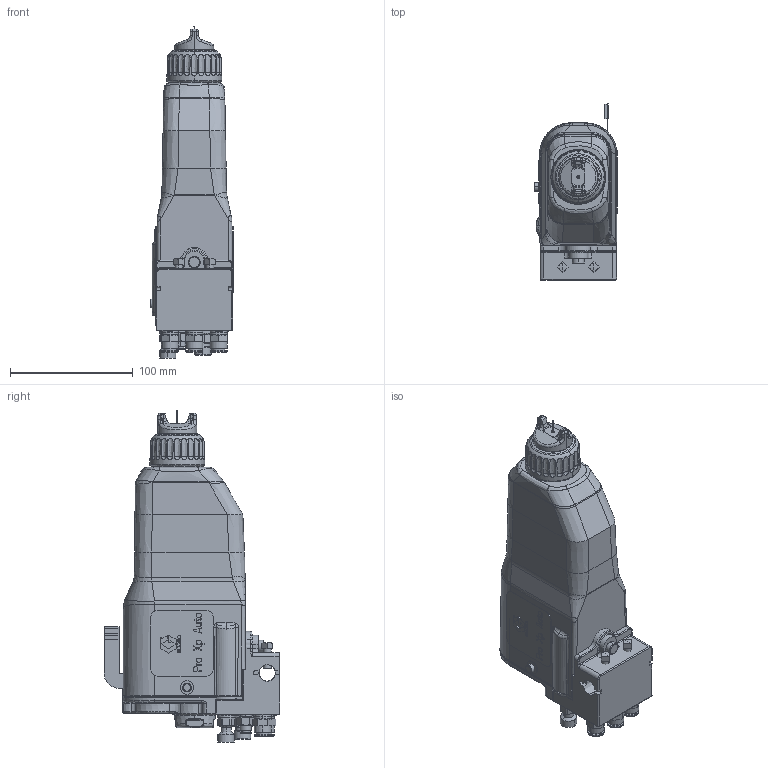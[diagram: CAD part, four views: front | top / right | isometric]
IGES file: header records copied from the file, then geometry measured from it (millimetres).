
Start section:  PTC IGES file: la1m10-en-k.igs
Global section: file name: la1m10-en-k.igs; native system: Creo Parametric by PTC Inc.; preprocessor: 2019030; author: qusrh3; organization: Unknown; date: 20200518.163737; units: inch
Bounding box: 67.94 x 143.13 x 270.08 mm (x, y, z)
Surface area: 105527.7 mm2 (no closed solid volume)
Topology: 0 solids, 0 shells, 1207 faces, 6134 edges, 6128 vertices
Faces by surface type: bspline 810, revolution 352, extrusion 45
